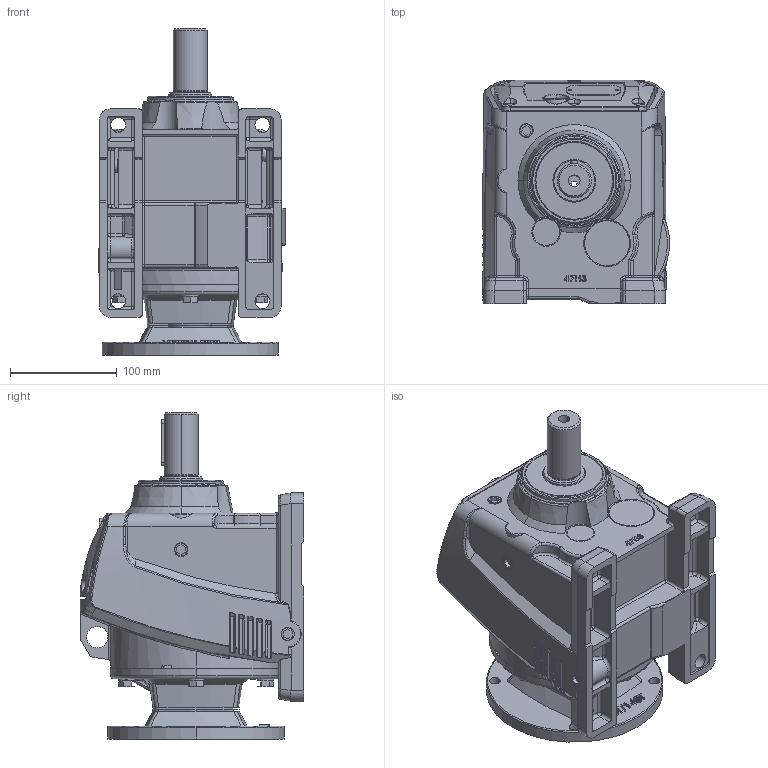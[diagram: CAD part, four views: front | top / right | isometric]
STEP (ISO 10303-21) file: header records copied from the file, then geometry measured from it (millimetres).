
FILE_DESCRIPTION (( 'STEP AP203' ), '1' );
FILE_NAME ('WINL47-145TC.STEP', '2013-09-26T09:11:19', ( 'User' ), ( 'Chenta' ), 'SwSTEP 2.0', 'SolidWorks 2011', '' );
FILE_SCHEMA (( 'CONFIG_CONTROL_DESIGN' ));
Length unit declared in the file: millimetre
Products named in the file (1): WINL47-145TC
Bounding box: 175.22 x 209.5 x 305.5 mm (x, y, z)
Surface area: 340875.7 mm2 (no closed solid volume)
Topology: 0 solids, 33 shells, 1276 faces, 3690 edges, 2383 vertices
Faces by surface type: plane 416, cylinder 350, bspline 327, cone 83, torus 59, sphere 41
Entity records: 56677 total; most frequent: CARTESIAN_POINT 26107, ORIENTED_EDGE 6605, DIRECTION 5609, EDGE_CURVE 3651, VERTEX_POINT 2381, AXIS2_PLACEMENT_3D 2044, VECTOR 1521, LINE 1521
